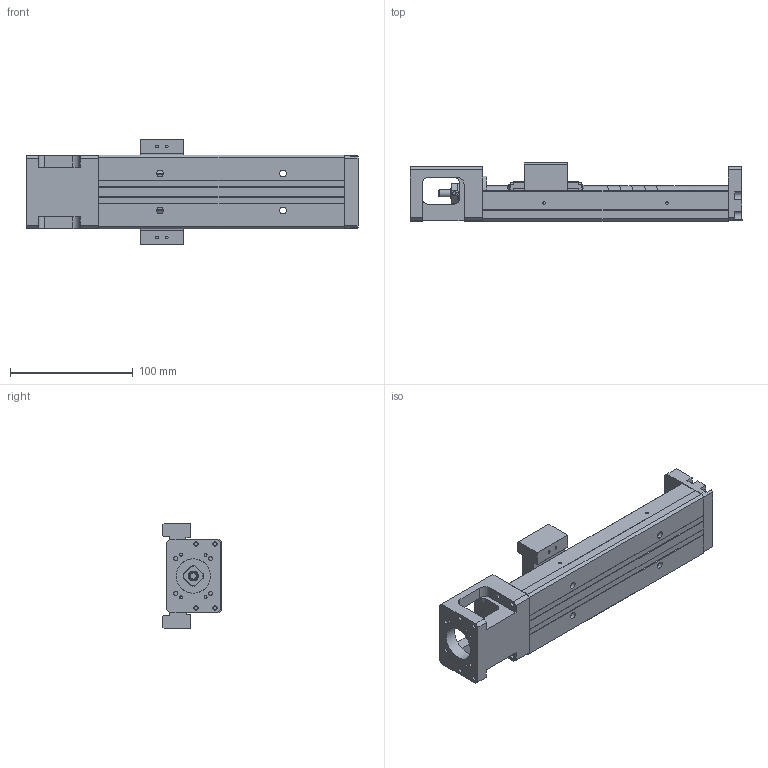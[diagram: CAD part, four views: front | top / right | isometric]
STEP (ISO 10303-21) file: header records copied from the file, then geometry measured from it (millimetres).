
FILE_DESCRIPTION(/* description */ (''),/* implementation_level */ '2;1');
FILE_NAME(/* name */ '33S-200.stp',/* time_stamp */ '2016-12-20T13:35:22+08:00',/* author */ (''),/* organization */ (''),/* preprocessor_version */ 'ST-DEVELOPER v11',/* originating_system */ 'SIEMENS UGS NX 6.0',/* authorisation */ '');
FILE_SCHEMA (('AUTOMOTIVE_DESIGN { 1 0 10303 214 1 1 1 1 }'));
Length unit declared in the file: millimetre
Products named in the file (1): model4
Bounding box: 270 x 47.95 x 86 mm (x, y, z)
Volume: 379504.7 mm3; surface area: 108412 mm2
Topology: 6 solids, 11 shells, 642 faces, 1637 edges, 1078 vertices
Faces by surface type: plane 385, cylinder 172, bspline 31, cone 22, extrusion 21, torus 9, revolution 2
Full cylindrical faces by diameter (mm): 1.6 x1, 1.65 x4, 2.15 x6, 2.42 x4, 2.45 x4, 2.5 x12, 3.2 x4, 3.3 x4, 3.4 x4, 3.5 x10, 3.969 x1, 4 x4, 4.001 x1, 4.135 x2, 4.2 x2, 5.5 x4, 6 x5, 7.6 x1, 8 x5, 9.5 x4, 10.72 x3, 11.8 x2, 12 x6, 12.8 x1, 13 x2, 14 x1, 17.38 x3, 21.5 x1, 22 x2, 28 x1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
Entity records: 34314 total; most frequent: CARTESIAN_POINT 16152, DIRECTION 2910, ORIENTED_EDGE 2862, EDGE_CURVE 1431, VERTEX_POINT 1009, AXIS2_PLACEMENT_3D 1005, VECTOR 898, EDGE_LOOP 894
